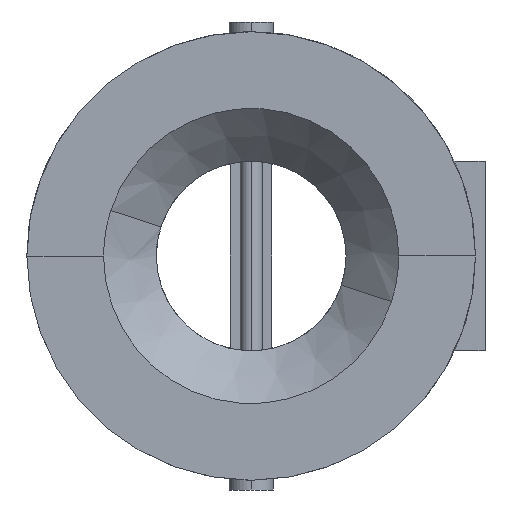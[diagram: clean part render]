
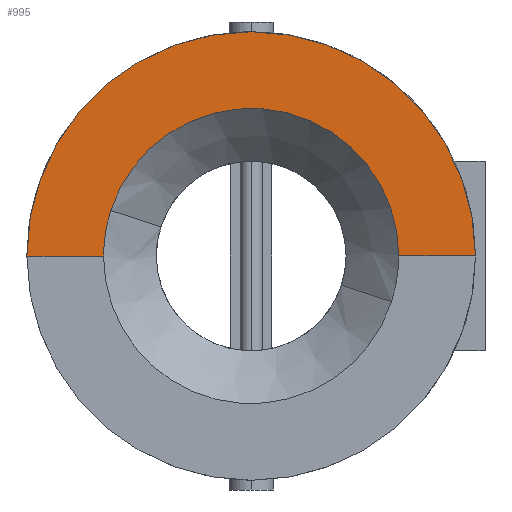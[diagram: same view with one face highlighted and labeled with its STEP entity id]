
A CAD part, left-side view. The second image highlights one B-rep face of the part: STEP entity #995.
In plain terms, the highlighted planar face has unit normal (-1, 0, 0).
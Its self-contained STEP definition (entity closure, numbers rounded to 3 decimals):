
#129 = PLANE ( 'NONE',  #727 ) ;
#138 = CARTESIAN_POINT ( 'NONE',  ( -36.5, -81., 0. ) ) ;
#153 = VECTOR ( 'NONE', #1553, 1000. ) ;
#190 = ORIENTED_EDGE ( 'NONE', *, *, #1636, .F. ) ;
#194 = DIRECTION ( 'NONE',  ( 0., -1., 0. ) ) ;
#233 = DIRECTION ( 'NONE',  ( 1., 0., 0. ) ) ;
#394 = AXIS2_PLACEMENT_3D ( 'NONE', #629, #233, #1633 ) ;
#397 = CARTESIAN_POINT ( 'NONE',  ( -36.5, 0., 0. ) ) ;
#452 = DIRECTION ( 'NONE',  ( 1., 0., 0. ) ) ;
#457 = CARTESIAN_POINT ( 'NONE',  ( -36.5, 0., 0. ) ) ;
#464 = AXIS2_PLACEMENT_3D ( 'NONE', #1639, #452, #744 ) ;
#472 = DIRECTION ( 'NONE',  ( 1., 0., 0. ) ) ;
#528 = ORIENTED_EDGE ( 'NONE', *, *, #832, .F. ) ;
#607 = VECTOR ( 'NONE', #725, 1000. ) ;
#629 = CARTESIAN_POINT ( 'NONE',  ( -36.5, 0., 0. ) ) ;
#691 = VERTEX_POINT ( 'NONE', #1140 ) ;
#725 = DIRECTION ( 'NONE',  ( 0., 1., 0. ) ) ;
#727 = AXIS2_PLACEMENT_3D ( 'NONE', #397, #1681, #793 ) ;
#744 = DIRECTION ( 'NONE',  ( 0., -1., 0. ) ) ;
#793 = DIRECTION ( 'NONE',  ( 0., -1., 0. ) ) ;
#801 = ORIENTED_EDGE ( 'NONE', *, *, #861, .T. ) ;
#807 = VERTEX_POINT ( 'NONE', #1548 ) ;
#824 = AXIS2_PLACEMENT_3D ( 'NONE', #457, #472, #194 ) ;
#832 = EDGE_CURVE ( 'NONE', #1251, #1103, #1386, .T. ) ;
#860 = CARTESIAN_POINT ( 'NONE',  ( -36.5, -81., 0. ) ) ;
#861 = EDGE_CURVE ( 'NONE', #1198, #691, #1281, .T. ) ;
#965 = ORIENTED_EDGE ( 'NONE', *, *, #1104, .F. ) ;
#995 = ADVANCED_FACE ( 'NONE', ( #1430 ), #129, .F. ) ;
#1039 = EDGE_LOOP ( 'NONE', ( #190, #965, #801, #1333, #528 ) ) ;
#1053 = CARTESIAN_POINT ( 'NONE',  ( -36.5, -53.3, 0. ) ) ;
#1103 = VERTEX_POINT ( 'NONE', #1053 ) ;
#1104 = EDGE_CURVE ( 'NONE', #1198, #807, #1314, .T. ) ;
#1130 = CIRCLE ( 'NONE', #394, 53.3 ) ;
#1140 = CARTESIAN_POINT ( 'NONE',  ( -36.5, 50.691, 16.471 ) ) ;
#1198 = VERTEX_POINT ( 'NONE', #1670 ) ;
#1251 = VERTEX_POINT ( 'NONE', #138 ) ;
#1281 = CIRCLE ( 'NONE', #464, 53.3 ) ;
#1314 = LINE ( 'NONE', #1437, #153 ) ;
#1333 = ORIENTED_EDGE ( 'NONE', *, *, #1664, .T. ) ;
#1386 = LINE ( 'NONE', #860, #607 ) ;
#1430 = FACE_OUTER_BOUND ( 'NONE', #1039, .T. ) ;
#1437 = CARTESIAN_POINT ( 'NONE',  ( -36.5, 53.3, 0. ) ) ;
#1548 = CARTESIAN_POINT ( 'NONE',  ( -36.5, 81., 0. ) ) ;
#1553 = DIRECTION ( 'NONE',  ( 0., 1., 0. ) ) ;
#1588 = CIRCLE ( 'NONE', #824, 81. ) ;
#1633 = DIRECTION ( 'NONE',  ( 0., -1., 0. ) ) ;
#1636 = EDGE_CURVE ( 'NONE', #807, #1251, #1588, .T. ) ;
#1639 = CARTESIAN_POINT ( 'NONE',  ( -36.5, 0., 0. ) ) ;
#1664 = EDGE_CURVE ( 'NONE', #691, #1103, #1130, .T. ) ;
#1670 = CARTESIAN_POINT ( 'NONE',  ( -36.5, 53.3, 0. ) ) ;
#1681 = DIRECTION ( 'NONE',  ( 1., 0., 0. ) ) ;
